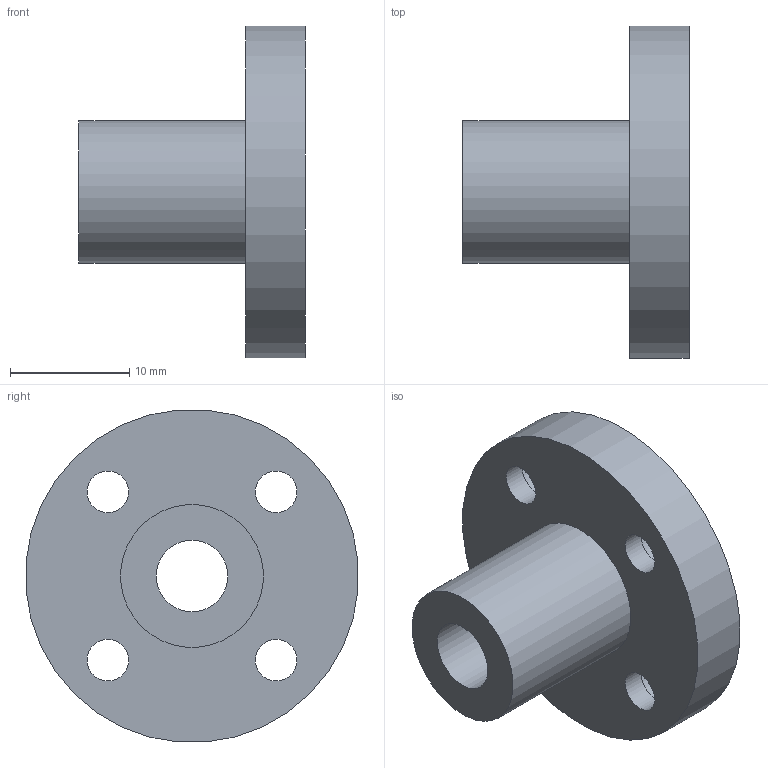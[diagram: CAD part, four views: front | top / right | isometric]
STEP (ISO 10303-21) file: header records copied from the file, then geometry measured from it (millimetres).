
FILE_DESCRIPTION(/* description */ (''),/* implementation_level */ '2;1');
FILE_NAME(/* name */ 'LMF6UU',/* time_stamp */ '2019-07-03T09:08:50+02:00',/* author */ ('VĂ©gh MĂˇtĂ©'),/* organization */ ('Bearing Kft'),/* preprocessor_version */ 'ST-DEVELOPER v16.7',/* originating_system */ 'DEX',/* authorisation */ $);
FILE_SCHEMA (('AUTOMOTIVE_DESIGN {1 0 10303 214 3 1 1}'));
Length unit declared in the file: millimetre
Products named in the file (1): LMF6UU
Bounding box: 19 x 27.89 x 27.89 mm (x, y, z)
Volume: 3700.8 mm3; surface area: 2748.4 mm2
Topology: 1 solids, 1 shells, 316 faces, 796 edges, 532 vertices
Faces by surface type: plane 239, bspline 64, cylinder 13
Full cylindrical faces by diameter (mm): 3.5 x4, 6 x5, 12 x1, 28 x1
Entity records: 11647 total; most frequent: CARTESIAN_POINT 4472, ORIENTED_EDGE 1558, DIRECTION 1183, EDGE_CURVE 779, LINE 625, VECTOR 625, VERTEX_POINT 528, EDGE_LOOP 389
